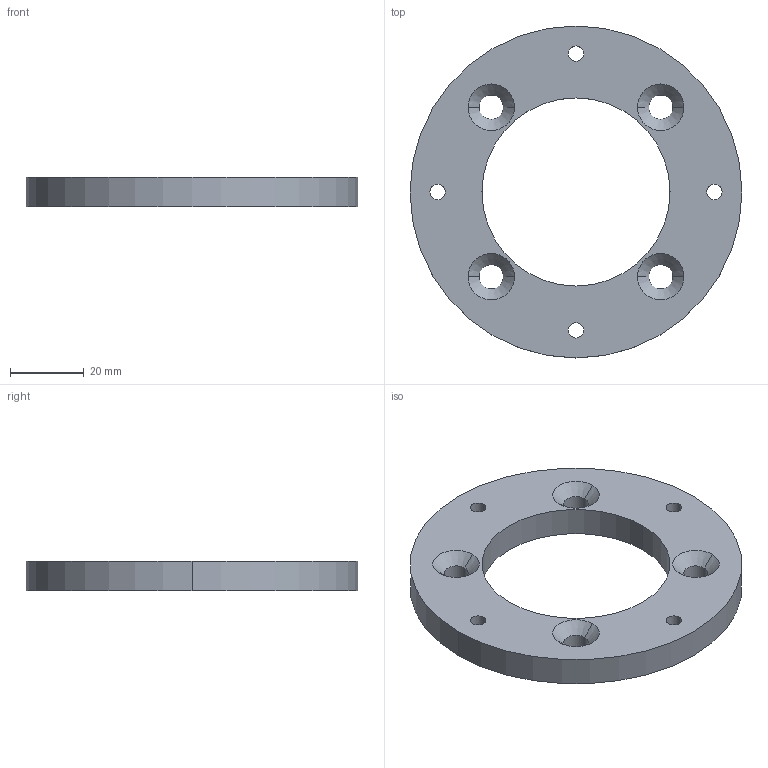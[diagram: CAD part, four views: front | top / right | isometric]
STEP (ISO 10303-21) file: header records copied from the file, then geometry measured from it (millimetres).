
FILE_DESCRIPTION (( 'STEP AP203' ), '1' );
FILE_NAME ('084.800.005.STEP', '2013-01-29T09:14:18', ( 'Alusic' ), ( 'Alusic' ), 'SwSTEP 2.0', 'SolidWorks 2011', '' );
FILE_SCHEMA (( 'CONFIG_CONTROL_DESIGN' ));
Length unit declared in the file: millimetre
Products named in the file (1): 084.800.005
Bounding box: 90 x 90 x 8 mm (x, y, z)
Volume: 32526.8 mm3; surface area: 12783.8 mm2
Topology: 1 solids, 1 shells, 30 faces, 76 edges, 48 vertices
Faces by surface type: cylinder 20, cone 8, plane 2
Entity records: 1037 total; most frequent: DIRECTION 186, CARTESIAN_POINT 155, ORIENTED_EDGE 152, AXIS2_PLACEMENT_3D 79, EDGE_CURVE 76, EDGE_LOOP 48, VERTEX_POINT 48, CIRCLE 48
